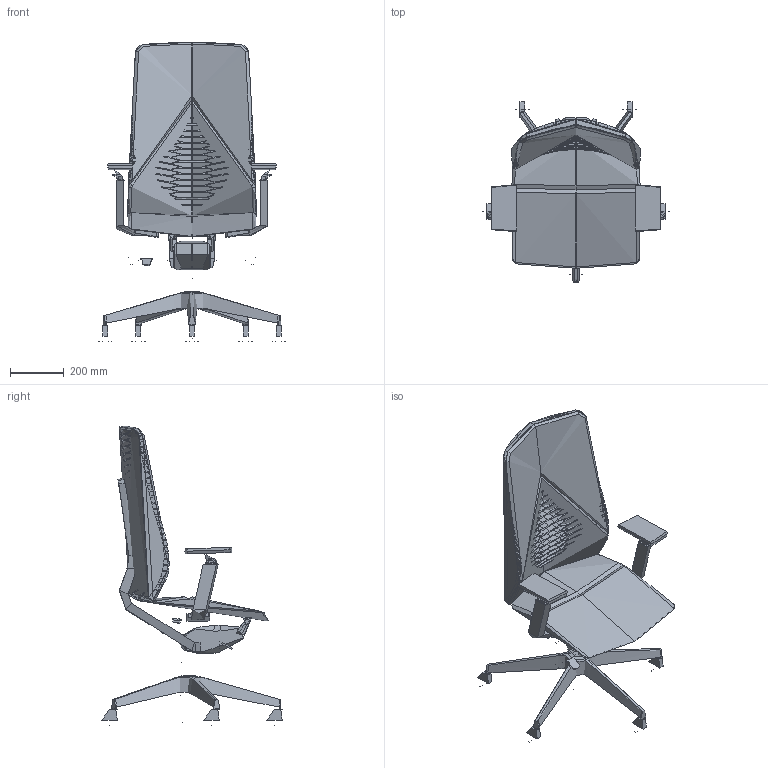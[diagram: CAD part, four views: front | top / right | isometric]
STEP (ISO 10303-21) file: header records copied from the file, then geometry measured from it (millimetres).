
FILE_DESCRIPTION(/* description */ (''),/* implementation_level */ '2;1');
FILE_NAME(/* name */ 'FollowMe 450-SYQ,F10',/* time_stamp */ '2023-03-20T13:32:35+01:00',/* author */ (''),/* organization */ (''),/* preprocessor_version */ 'ST-DEVELOPER v16.5',/* originating_system */ 'Rhino 7.27',/* authorisation */ '');
FILE_SCHEMA (('CONFIG_CONTROL_DESIGN'));
Products named in the file (1): Document
Bounding box: 696.72 x 672.99 x 1118.31 mm (x, y, z)
Volume: 1832099.3 mm3; surface area: 3603618.4 mm2
Topology: 17 solids, 73 shells, 3167 faces, 9186 edges, 6035 vertices
Faces by surface type: plane 2386, bspline 694, cylinder 87
Full cylindrical faces by diameter (mm): 12 x4, 18 x2, 25 x3, 28 x1, 30 x3, 32 x2, 46 x1, 50 x4, 57 x1, 60 x4
Entity records: 223234 total; most frequent: CARTESIAN_POINT 163548, ORIENTED_EDGE 17879, EDGE_CURVE 9178, B_SPLINE_CURVE_WITH_KNOTS 8502, VERTEX_POINT 6035, EDGE_LOOP 3384, ADVANCED_FACE 3167, FACE_OUTER_BOUND 3167
